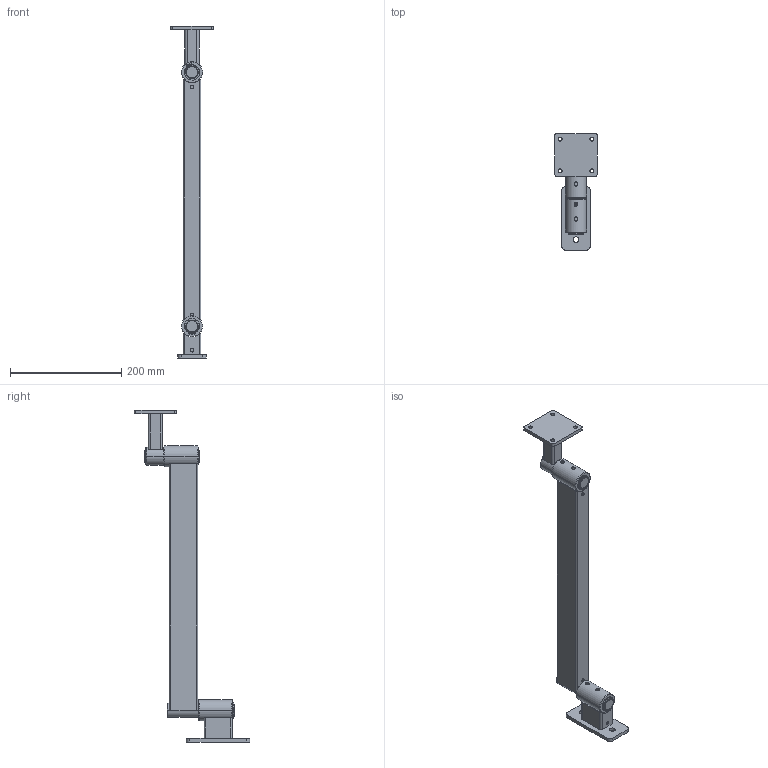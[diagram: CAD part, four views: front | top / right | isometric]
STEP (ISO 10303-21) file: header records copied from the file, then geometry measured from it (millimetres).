
FILE_DESCRIPTION (( 'STEP AP203' ), '1' );
FILE_NAME ('70-0601-00 REV AA, 18in RIGID ARM CONTROLLER, POWER SUPPLY MOUNT - EXTENDED.STEP', '2025-07-16T22:29:51', ( '' ), ( '' ), 'SwSTEP 2.0', 'SolidWorks 2025', '' );
FILE_SCHEMA (( 'CONFIG_CONTROL_DESIGN' ));
Length unit declared in the file: millimetre
Products named in the file (18): 71-1018-RX REV AA, HOUSING, 18in RIGID; 007-036-00, SHSS, 1''4-28, .25L_007-036-00; 71-0022-RX REV AA, PIN, RIGID SECTION; 70-1018-00 REV AA, 18in RIGID SECTION; 70-0601-00 REV AA, 18in RIGID ARM CONTROLLER, POWER SUPPLY MOUNT - EXTENDED; 010-012-00, RETAINING RING, EXTERNAL, .875in SHAFT; 70-0048-00 REV AA, CONNECTOR PIN ASSEMBLY, .875OD x 3.9; 70-0048-RX REV AA, CONNECTOR PIN, 875OD x 3.9; 016-007-00, OILITE PLUS BEARING, 0.876 id x 1.002 od x 0.75 lg; 71-0055-RX REV AA, HOUSING, 3X3 PLATE_MACHINE; 016-008-00, OILITE PLUS BEARING, 0.876 id x 1.002 od x 1.25 lg; 70-0055-00 REV AA, 3x3 PLATE ATTACHMENT; 71-0013-RX REV AA, HOUSING, BEARING, SHORT_MACHINE; 71-0218-RX REV AA, PLATE, MICRO HD, 4.5 x 2.0 x .25_Laser; 11-0055-RX REV AA, PLATE, 3X3 ATTACHMENT_Laser; 71-0090-RX REV AA, HOUSING, MOUNT; 70-0018-00 REV AA, MICRO HD WALL MOUNT; 71-2113-RX REV AA, HOUSING, BEARING, TALL, 1.5OD_MACHINE
Assembly tree (25 placements, depth 3):
  70-0601-00 REV AA, 18in RIGID ARM CONTROLLER, POWER SUPPLY MOUNT - EXTENDED
    70-0018-00 REV AA, MICRO HD WALL MOUNT
      71-0218-RX REV AA, PLATE, MICRO HD, 4.5 x 2.0 x .25_Laser
      71-0090-RX REV AA, HOUSING, MOUNT
      71-2113-RX REV AA, HOUSING, BEARING, TALL, 1.5OD_MACHINE
      016-007-00, OILITE PLUS BEARING, 0.876 id x 1.002 od x 0.75 lg
      016-008-00, OILITE PLUS BEARING, 0.876 id x 1.002 od x 1.25 lg
      007-036-00, SHSS, 1''4-28, .25L_007-036-00
    70-1018-00 REV AA, 18in RIGID SECTION
      71-1018-RX REV AA, HOUSING, 18in RIGID
      71-0022-RX REV AA, PIN, RIGID SECTION
      71-2113-RX REV AA, HOUSING, BEARING, TALL, 1.5OD_MACHINE
      016-007-00, OILITE PLUS BEARING, 0.876 id x 1.002 od x 0.75 lg
      016-008-00, OILITE PLUS BEARING, 0.876 id x 1.002 od x 1.25 lg
      010-012-00, RETAINING RING, EXTERNAL, .875in SHAFT
      007-036-00, SHSS, 1''4-28, .25L_007-036-00
    70-0048-00 REV AA, CONNECTOR PIN ASSEMBLY, .875OD x 3.9
      70-0048-RX REV AA, CONNECTOR PIN, 875OD x 3.9
      010-012-00, RETAINING RING, EXTERNAL, .875in SHAFT  x2
    70-0055-00 REV AA, 3x3 PLATE ATTACHMENT
      71-0055-RX REV AA, HOUSING, 3X3 PLATE_MACHINE
      71-0013-RX REV AA, HOUSING, BEARING, SHORT_MACHINE
      11-0055-RX REV AA, PLATE, 3X3 ATTACHMENT_Laser
      016-008-00, OILITE PLUS BEARING, 0.876 id x 1.002 od x 1.25 lg
      007-036-00, SHSS, 1''4-28, .25L_007-036-00
Bounding box: 76.2 x 208.41 x 597.61 mm (x, y, z)
Volume: 435205.1 mm3; surface area: 260725.3 mm2
Topology: 21 solids, 21 shells, 487 faces, 1165 edges, 716 vertices
Faces by surface type: cylinder 212, plane 130, cone 74, torus 62, bspline 9
Entity records: 12302 total; most frequent: CARTESIAN_POINT 3270, DIRECTION 1569, ORIENTED_EDGE 1374, EDGE_CURVE 687, AXIS2_PLACEMENT_3D 643, VERTEX_POINT 432, EDGE_LOOP 335, CIRCLE 327
